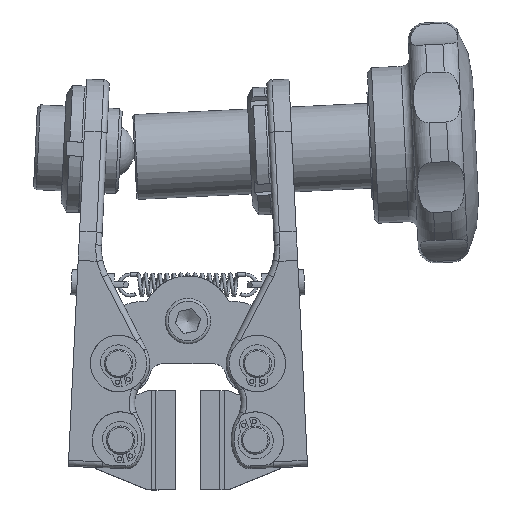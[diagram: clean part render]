
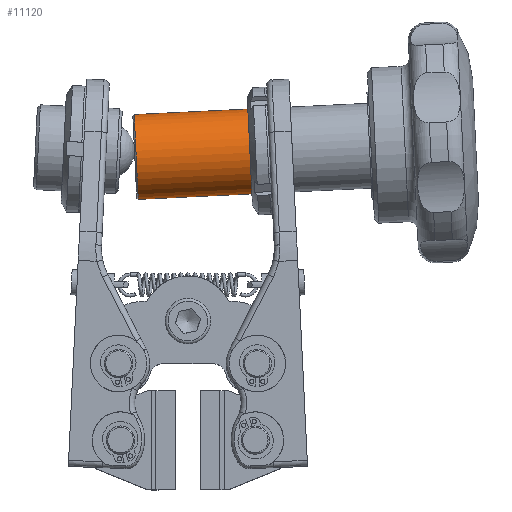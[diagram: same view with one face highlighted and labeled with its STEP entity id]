
A CAD part, top view. The second image highlights one B-rep face of the part: STEP entity #11120.
In plain terms, the highlighted cylindrical face has radius 15 mm (diameter 30 mm), a full revolution.
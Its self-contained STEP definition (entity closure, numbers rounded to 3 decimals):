
#360=LINE('',#18935,#1150);
#1150=VECTOR('',#13276,15.);
#1907=CYLINDRICAL_SURFACE('',#11810,15.);
#2452=FACE_OUTER_BOUND('',#3087,.T.);
#3087=EDGE_LOOP('',(#7492,#7493,#7494,#7495,#7496));
#3788=CIRCLE('',#11763,15.);
#3811=CIRCLE('',#11811,15.);
#3812=CIRCLE('',#11812,15.);
#4521=VERTEX_POINT('',#18647);
#4583=VERTEX_POINT('',#18934);
#4584=VERTEX_POINT('',#18936);
#5642=EDGE_CURVE('',#4521,#4521,#3788,.T.);
#5726=EDGE_CURVE('',#4521,#4583,#360,.T.);
#5727=EDGE_CURVE('',#4584,#4583,#3811,.T.);
#5728=EDGE_CURVE('',#4583,#4584,#3812,.T.);
#7492=ORIENTED_EDGE('',*,*,#5642,.T.);
#7493=ORIENTED_EDGE('',*,*,#5726,.T.);
#7494=ORIENTED_EDGE('',*,*,#5727,.F.);
#7495=ORIENTED_EDGE('',*,*,#5728,.F.);
#7496=ORIENTED_EDGE('',*,*,#5726,.F.);
#11120=ADVANCED_FACE('',(#2452),#1907,.T.);
#11763=AXIS2_PLACEMENT_3D('',#18648,#13142,#13143);
#11810=AXIS2_PLACEMENT_3D('',#18933,#13274,#13275);
#11811=AXIS2_PLACEMENT_3D('',#18937,#13277,#13278);
#11812=AXIS2_PLACEMENT_3D('',#18938,#13279,#13280);
#13142=DIRECTION('center_axis',(-0.999,-0.048,
0.));
#13143=DIRECTION('ref_axis',(0.015,-0.314,-0.949));
#13274=DIRECTION('center_axis',(0.999,0.048,0.));
#13275=DIRECTION('ref_axis',(0.015,-0.314,-0.949));
#13276=DIRECTION('',(-0.999,-0.048,0.));
#13277=DIRECTION('center_axis',(-0.999,-0.048,
0.));
#13278=DIRECTION('ref_axis',(-0.015,0.314,0.949));
#13279=DIRECTION('center_axis',(-0.999,-0.048,
0.));
#13280=DIRECTION('ref_axis',(-0.015,0.314,0.949));
#18647=CARTESIAN_POINT('',(21.668,89.669,14.24));
#18648=CARTESIAN_POINT('Origin',(21.894,84.961,0.));
#18933=CARTESIAN_POINT('Origin',(25.19,85.12,0.));
#18934=CARTESIAN_POINT('',(-18.486,87.737,14.24));
#18935=CARTESIAN_POINT('',(24.964,89.828,14.24));
#18936=CARTESIAN_POINT('',(-18.033,78.321,-14.24));
#18937=CARTESIAN_POINT('Origin',(-18.259,83.029,0.));
#18938=CARTESIAN_POINT('Origin',(-18.259,83.029,0.));
